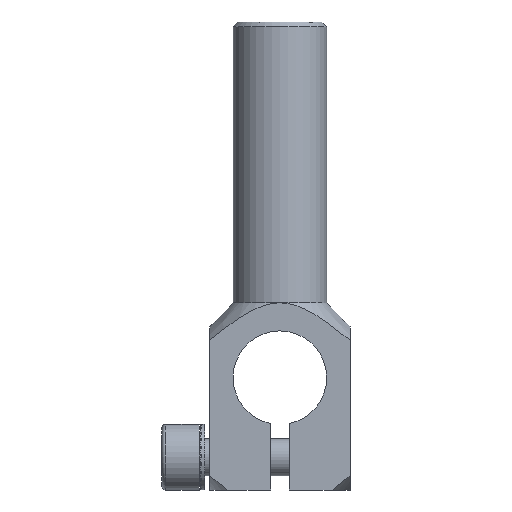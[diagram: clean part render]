
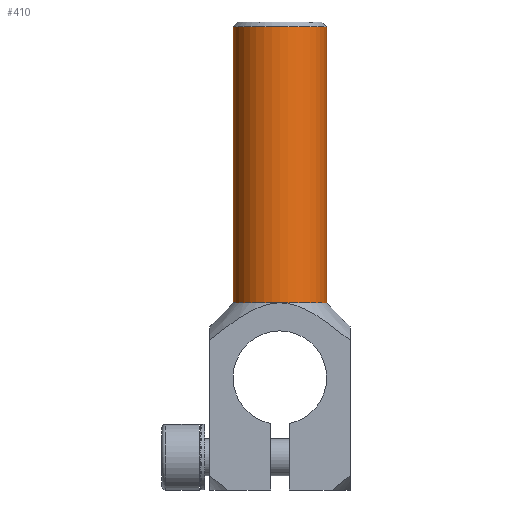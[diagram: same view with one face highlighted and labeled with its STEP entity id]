
A CAD part, front view. The second image highlights one B-rep face of the part: STEP entity #410.
In plain terms, the highlighted cylindrical face has radius 5 mm (diameter 10 mm), a full revolution.
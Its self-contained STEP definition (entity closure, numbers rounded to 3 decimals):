
#410=ADVANCED_FACE('',(#930,#931),#932,.T.);
#930=FACE_OUTER_BOUND('',#1660,.T.);
#931=FACE_OUTER_BOUND('',#1661,.T.);
#932=CYLINDRICAL_SURFACE('',#1662,5.0);
#1660=EDGE_LOOP('',(#2404));
#1661=EDGE_LOOP('',(#2405,#2406));
#1662=AXIS2_PLACEMENT_3D('',#2407,#2408,#2409);
#2404=ORIENTED_EDGE('',*,*,#4610,.T.);
#2405=ORIENTED_EDGE('',*,*,#4611,.F.);
#2406=ORIENTED_EDGE('',*,*,#4612,.F.);
#2407=CARTESIAN_POINT('',(0.,-60.0,0.0));
#2408=DIRECTION('',(0.,-1.0,0.));
#2409=DIRECTION('',(0.0,0.,-1.0));
#4610=EDGE_CURVE('',#5510,#5510,#5511,.F.);
#4611=EDGE_CURVE('',#5512,#5491,#5513,.T.);
#4612=EDGE_CURVE('',#5491,#5512,#5514,.T.);
#5491=VERTEX_POINT('',#6831);
#5510=VERTEX_POINT('',#6903);
#5511=CIRCLE('',#6904,5.0);
#5512=VERTEX_POINT('',#6905);
#5513=CIRCLE('',#6906,5.0);
#5514=CIRCLE('',#6907,5.0);
#6831=CARTESIAN_POINT('',(0.,20.0,5.0));
#6903=CARTESIAN_POINT('',(0.,49.5,5.));
#6904=AXIS2_PLACEMENT_3D('',#8673,#8674,#8675);
#6905=CARTESIAN_POINT('',(0.,20.0,-5.0));
#6906=AXIS2_PLACEMENT_3D('',#8676,#8677,#8678);
#6907=AXIS2_PLACEMENT_3D('',#8679,#8680,#8681);
#8673=CARTESIAN_POINT('',(0.,49.5,0.));
#8674=DIRECTION('',(0.,1.0,0.));
#8675=DIRECTION('',(0.0,0.,1.0));
#8676=CARTESIAN_POINT('',(0.,20.0,0.));
#8677=DIRECTION('',(0.,-1.0,0.));
#8678=DIRECTION('',(0.0,0.,-1.0));
#8679=CARTESIAN_POINT('',(0.,20.0,0.));
#8680=DIRECTION('',(0.,-1.0,0.));
#8681=DIRECTION('',(0.0,0.,-1.0));
